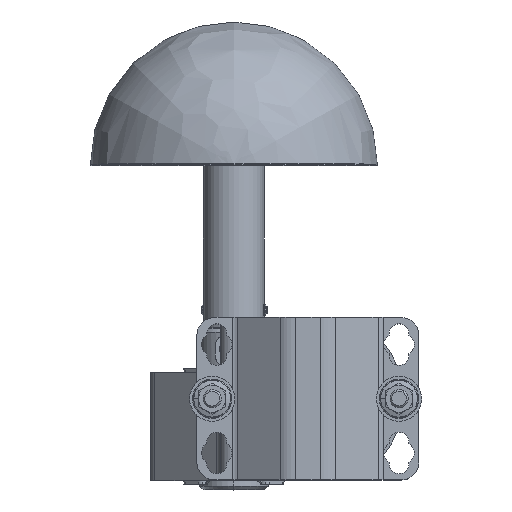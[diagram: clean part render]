
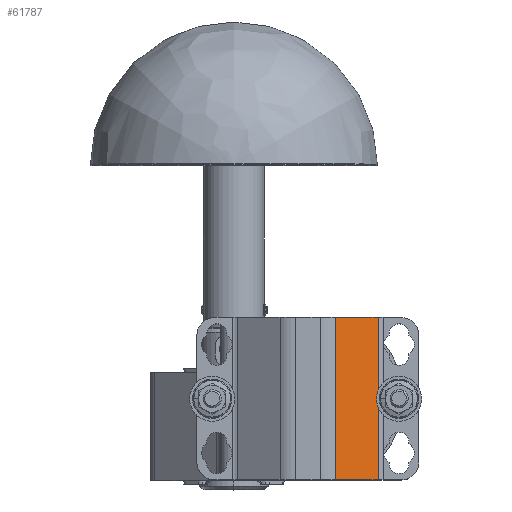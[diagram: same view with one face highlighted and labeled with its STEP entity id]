
A CAD part, top view. The second image highlights one B-rep face of the part: STEP entity #61787.
In plain terms, the highlighted planar face has unit normal (0.574, 0, 0.819) as drawn and (0.574, 0.819, 0) by its records, which use the part's own axes.
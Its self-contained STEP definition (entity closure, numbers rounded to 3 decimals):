
#3861 = DIRECTION ( 'NONE',  ( 0.819, -0.574, 0. ) ) ;
#5177 = VECTOR ( 'NONE', #5235, 1000. ) ;
#5235 = DIRECTION ( 'NONE',  ( 0., 0., -1. ) ) ;
#6181 = CARTESIAN_POINT ( 'NONE',  ( 38.848, -14.096, 0. ) ) ;
#8502 = VECTOR ( 'NONE', #62050, 1000. ) ;
#10114 = CARTESIAN_POINT ( 'NONE',  ( 15.451, 2.287, 90. ) ) ;
#10735 = EDGE_CURVE ( 'NONE', #107120, #106264, #84212, .T. ) ;
#17153 = ORIENTED_EDGE ( 'NONE', *, *, #52396, .T. ) ;
#20873 = ORIENTED_EDGE ( 'NONE', *, *, #79042, .T. ) ;
#23995 = CARTESIAN_POINT ( 'NONE',  ( 38.848, -14.096, 90. ) ) ;
#24211 = CARTESIAN_POINT ( 'NONE',  ( 38.848, -14.096, 90. ) ) ;
#29248 = CARTESIAN_POINT ( 'NONE',  ( 15.451, 2.287, 90. ) ) ;
#30670 = DIRECTION ( 'NONE',  ( -0.574, -0.819, 0. ) ) ;
#40822 = VERTEX_POINT ( 'NONE', #6181 ) ;
#42642 = VERTEX_POINT ( 'NONE', #48368 ) ;
#45446 = CARTESIAN_POINT ( 'NONE',  ( 38.848, -14.096, 0. ) ) ;
#48368 = CARTESIAN_POINT ( 'NONE',  ( 15.451, 2.287, 0. ) ) ;
#50597 = ORIENTED_EDGE ( 'NONE', *, *, #10735, .F. ) ;
#52396 = EDGE_CURVE ( 'NONE', #40822, #42642, #79873, .T. ) ;
#52773 = VECTOR ( 'NONE', #78278, 1000. ) ;
#53631 = ORIENTED_EDGE ( 'NONE', *, *, #62192, .F. ) ;
#55848 = FACE_OUTER_BOUND ( 'NONE', #94903, .T. ) ;
#56089 = CARTESIAN_POINT ( 'NONE',  ( 38.848, -14.096, 90. ) ) ;
#57586 = CARTESIAN_POINT ( 'NONE',  ( 38.848, -14.096, 90. ) ) ;
#61787 = ADVANCED_FACE ( 'NONE', ( #55848 ), #64503, .F. ) ;
#62050 = DIRECTION ( 'NONE',  ( -0.819, 0.574, 0. ) ) ;
#62192 = EDGE_CURVE ( 'NONE', #106264, #42642, #86895, .T. ) ;
#63618 = AXIS2_PLACEMENT_3D ( 'NONE', #57586, #30670, #3861 ) ;
#64503 = PLANE ( 'NONE',  #63618 ) ;
#68146 = DIRECTION ( 'NONE',  ( -0.819, 0.574, 0. ) ) ;
#76487 = VECTOR ( 'NONE', #68146, 1000. ) ;
#78278 = DIRECTION ( 'NONE',  ( 0., 0., -1. ) ) ;
#79042 = EDGE_CURVE ( 'NONE', #107120, #40822, #91739, .T. ) ;
#79873 = LINE ( 'NONE', #45446, #8502 ) ;
#84212 = LINE ( 'NONE', #23995, #76487 ) ;
#86895 = LINE ( 'NONE', #10114, #52773 ) ;
#91739 = LINE ( 'NONE', #56089, #5177 ) ;
#94903 = EDGE_LOOP ( 'NONE', ( #17153, #53631, #50597, #20873 ) ) ;
#106264 = VERTEX_POINT ( 'NONE', #29248 ) ;
#107120 = VERTEX_POINT ( 'NONE', #24211 ) ;
